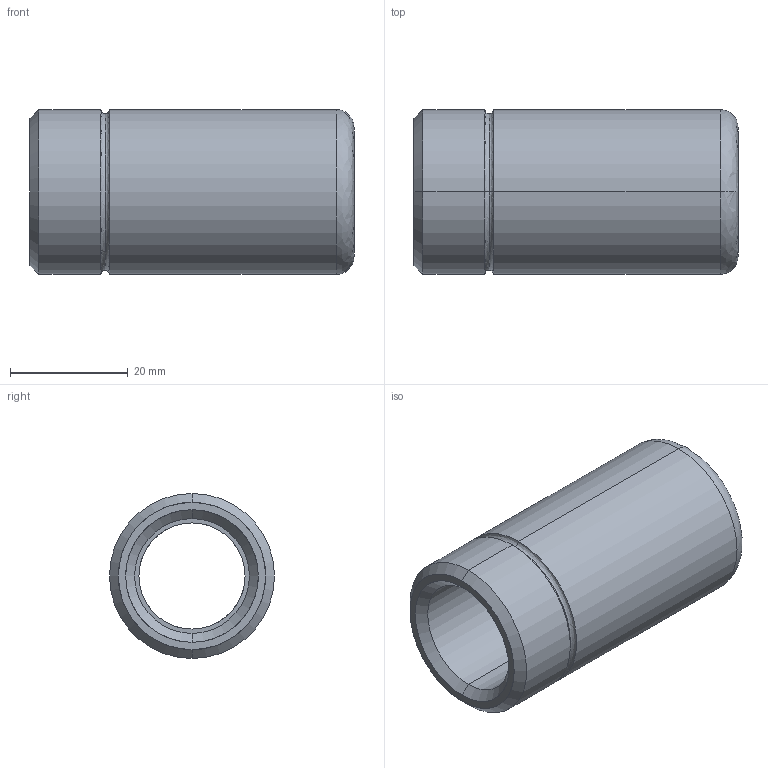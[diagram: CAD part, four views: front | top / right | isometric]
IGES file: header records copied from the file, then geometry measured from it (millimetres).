
Start section: START RECORD GO HERE.
Global section: file name: 348-18 x 55.igs; native system: DASSAULT SYSTEMES CATIA V5 R20 - www.3ds.com; preprocessor: CATIA Version 5 Release 20 ; author: Utente; organization: NB04-ASUS; date: 20201230.210009; units: millimetre
Bounding box: 55 x 28 x 28 mm (x, y, z)
Surface area: 8681.5 mm2 (no closed solid volume)
Topology: 0 solids, 0 shells, 29 faces, 172 edges, 172 vertices
Faces by surface type: revolution 26, plane 3
